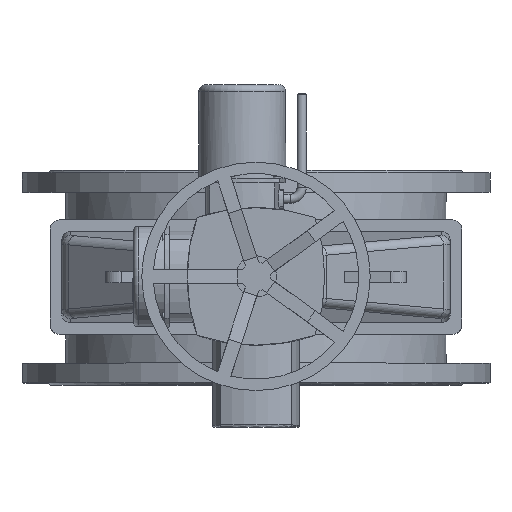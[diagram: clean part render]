
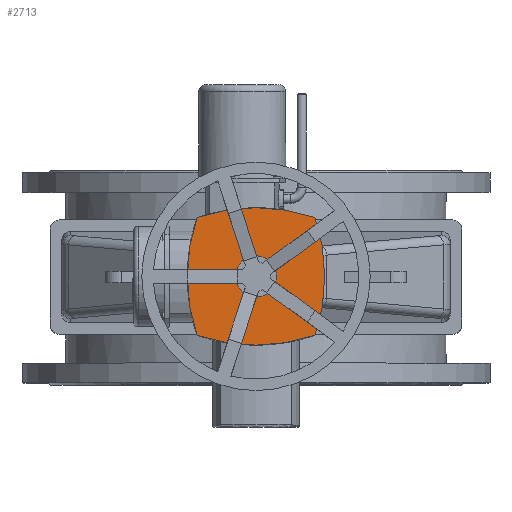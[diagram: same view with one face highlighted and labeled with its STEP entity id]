
A CAD part, top view. The second image highlights one B-rep face of the part: STEP entity #2713.
In plain terms, the highlighted planar face has unit normal (0, 0, 1).
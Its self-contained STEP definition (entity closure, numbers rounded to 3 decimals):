
#2713=ADVANCED_FACE('',(#8503,#8505),#8507,.T.);
#8503=FACE_BOUND('',#8504,.T.);
#8504=EDGE_LOOP('',(#11581,#11582,#11583,#11584));
#8505=FACE_BOUND('',#8506,.T.);
#8506=EDGE_LOOP('',(#11585));
#8507=PLANE('',#8508);
#8508=AXIS2_PLACEMENT_3D('',#8509,#8510,#8511);
#8509=CARTESIAN_POINT('',(0.,0.,1876.));
#8510=DIRECTION('',(0.,0.,1.));
#8511=DIRECTION('',(0.,1.,0.));
#11581=ORIENTED_EDGE('',*,*,#12805,.T.);
#11582=ORIENTED_EDGE('',*,*,#12810,.T.);
#11583=ORIENTED_EDGE('',*,*,#12811,.T.);
#11584=ORIENTED_EDGE('',*,*,#12798,.T.);
#11585=ORIENTED_EDGE('',*,*,#12812,.F.);
#12798=EDGE_CURVE('',#14256,#14254,#14257,.T.);
#12805=EDGE_CURVE('',#14254,#14266,#14268,.T.);
#12810=EDGE_CURVE('',#14266,#14277,#14278,.T.);
#12811=EDGE_CURVE('',#14277,#14256,#14279,.T.);
#12812=EDGE_CURVE('',#14280,#14280,#14281,.T.);
#14254=VERTEX_POINT('',#18321);
#14256=VERTEX_POINT('',#18325);
#14257=CIRCLE('',#18326,400.);
#14266=VERTEX_POINT('',#18352);
#14268=CIRCLE('',#18356,400.);
#14277=VERTEX_POINT('',#18543);
#14278=CIRCLE('',#18544,400.);
#14279=CIRCLE('',#18548,400.);
#14280=VERTEX_POINT('',#18552);
#14281=CIRCLE('',#18553,45.);
#18321=CARTESIAN_POINT('',(-129.047,-129.047,1876.));
#18325=CARTESIAN_POINT('',(-129.047,129.047,1876.));
#18326=AXIS2_PLACEMENT_3D('',#18327,#18328,#18329);
#18327=CARTESIAN_POINT('',(249.565,0.,1876.));
#18328=DIRECTION('',(0.,0.,1.));
#18329=DIRECTION('',(-0.947,0.323,0.));
#18352=CARTESIAN_POINT('',(129.047,-129.047,1876.));
#18356=AXIS2_PLACEMENT_3D('',#18357,#18358,#18359);
#18357=CARTESIAN_POINT('',(0.,249.565,1876.));
#18358=DIRECTION('',(0.,0.,1.));
#18359=DIRECTION('',(-0.323,-0.947,0.));
#18543=CARTESIAN_POINT('',(129.047,129.047,1876.));
#18544=AXIS2_PLACEMENT_3D('',#18545,#18546,#18547);
#18545=CARTESIAN_POINT('',(-249.565,0.,1876.));
#18546=DIRECTION('',(0.,0.,1.));
#18547=DIRECTION('',(0.947,-0.323,0.));
#18548=AXIS2_PLACEMENT_3D('',#18549,#18550,#18551);
#18549=CARTESIAN_POINT('',(0.,-249.565,1876.));
#18550=DIRECTION('',(0.,0.,1.));
#18551=DIRECTION('',(0.323,0.947,0.));
#18552=CARTESIAN_POINT('',(0.,45.,1876.));
#18553=AXIS2_PLACEMENT_3D('',#18554,#18555,#18556);
#18554=CARTESIAN_POINT('',(0.,0.,1876.));
#18555=DIRECTION('',(0.,0.,1.));
#18556=DIRECTION('',(0.,1.,0.));
